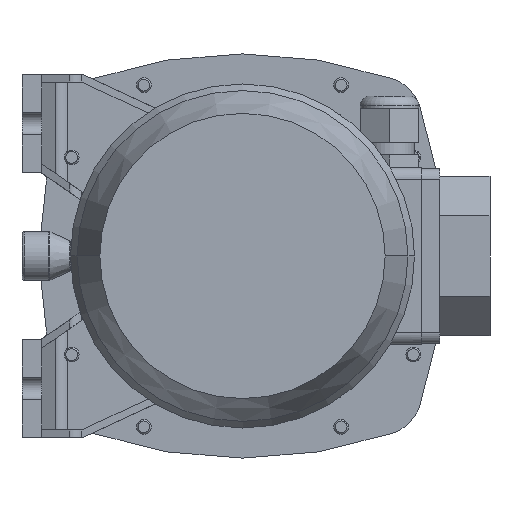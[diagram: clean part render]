
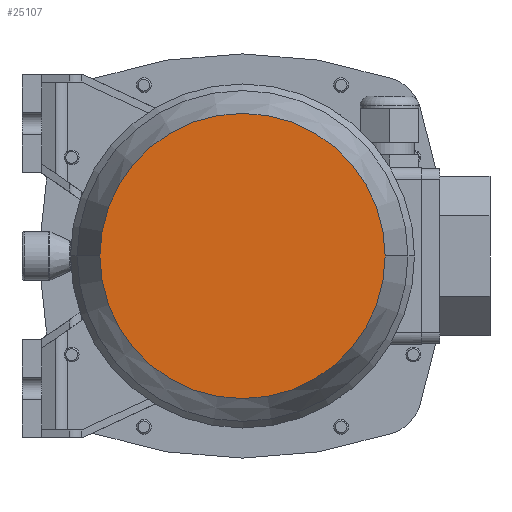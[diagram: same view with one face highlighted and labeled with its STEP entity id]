
A CAD part, front view. The second image highlights one B-rep face of the part: STEP entity #25107.
In plain terms, the highlighted planar face has unit normal (0, -1, 0) as drawn and (1, 0, 0) by its records, which use the part's own axes.
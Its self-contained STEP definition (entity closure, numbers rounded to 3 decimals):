
#18444=CARTESIAN_POINT('',(193.,0.,0.));
#18445=DIRECTION('',(-1.,0.,0.));
#18446=DIRECTION('',(0.,1.,0.));
#18447=AXIS2_PLACEMENT_3D('',#18444,#18445,#18446);
#18452=CARTESIAN_POINT('',(193.,0.,0.));
#18453=DIRECTION('',(1.,0.,0.));
#18454=DIRECTION('',(0.,1.,0.));
#18455=AXIS2_PLACEMENT_3D('',#18452,#18453,#18454);
#20395=CARTESIAN_POINT('',(193.,58.207,0.));
#20397=VERTEX_POINT('',#20395);
#20405=CARTESIAN_POINT('',(193.,-58.207,0.));
#20407=VERTEX_POINT('',#20405);
#25098=CARTESIAN_POINT('',(193.,0.,0.));
#25099=DIRECTION('',(1.,0.,0.));
#25100=DIRECTION('',(0.,-1.,0.));
#25101=AXIS2_PLACEMENT_3D('',#25098,#25099,#25100);
#25102=PLANE('',#25101);
#25103=ORIENTED_EDGE('',*,*,#25080,.T.);
#25104=ORIENTED_EDGE('',*,*,#25091,.F.);
#25105=EDGE_LOOP('',(#25103,#25104));
#25106=FACE_OUTER_BOUND('',#25105,.F.);
#18448=CIRCLE('',#18447,58.207);
#18456=CIRCLE('',#18455,58.207);
#25080=EDGE_CURVE('',#20397,#20407,#18448,.T.);
#25091=EDGE_CURVE('',#20397,#20407,#18456,.T.);
#25107=ADVANCED_FACE('',(#25106),#25102,.T.);
